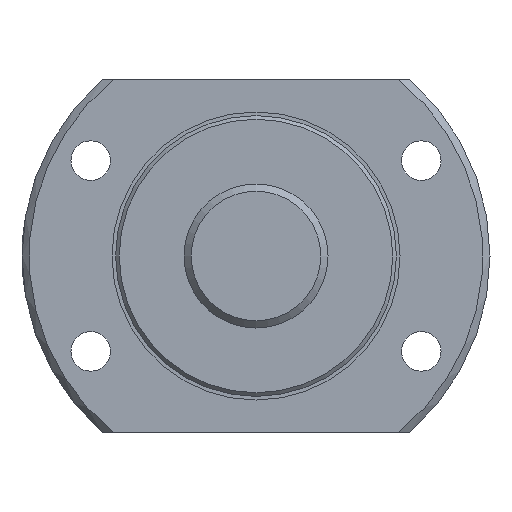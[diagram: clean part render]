
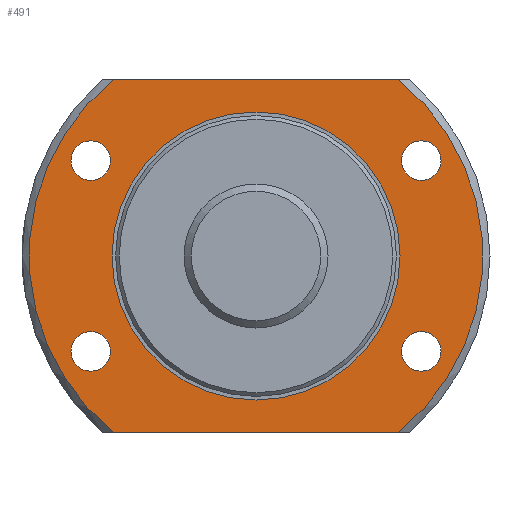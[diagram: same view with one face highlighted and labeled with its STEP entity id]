
A CAD part, left-side view. The second image highlights one B-rep face of the part: STEP entity #491.
In plain terms, the highlighted planar face has unit normal (-1, 0, 0).
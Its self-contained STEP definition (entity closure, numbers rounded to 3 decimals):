
#34=LINE('',#898,#42);
#35=LINE('',#899,#43);
#42=VECTOR('',#715,1000.);
#43=VECTOR('',#716,1000.);
#143=ORIENTED_EDGE('',*,*,#229,.T.);
#144=ORIENTED_EDGE('',*,*,#230,.F.);
#145=ORIENTED_EDGE('',*,*,#203,.F.);
#146=ORIENTED_EDGE('',*,*,#231,.F.);
#147=ORIENTED_EDGE('',*,*,#227,.F.);
#148=ORIENTED_EDGE('',*,*,#232,.T.);
#149=ORIENTED_EDGE('',*,*,#233,.T.);
#150=ORIENTED_EDGE('',*,*,#234,.T.);
#151=ORIENTED_EDGE('',*,*,#235,.T.);
#203=EDGE_CURVE('',#256,#254,#295,.T.);
#227=EDGE_CURVE('',#274,#275,#312,.T.);
#229=EDGE_CURVE('',#276,#276,#313,.T.);
#230=EDGE_CURVE('',#254,#274,#34,.T.);
#231=EDGE_CURVE('',#275,#256,#35,.T.);
#232=EDGE_CURVE('',#277,#277,#314,.T.);
#233=EDGE_CURVE('',#278,#278,#315,.T.);
#234=EDGE_CURVE('',#279,#279,#316,.T.);
#235=EDGE_CURVE('',#280,#280,#317,.T.);
#254=VERTEX_POINT('',#816);
#256=VERTEX_POINT('',#823);
#274=VERTEX_POINT('',#888);
#275=VERTEX_POINT('',#890);
#276=VERTEX_POINT('',#897);
#277=VERTEX_POINT('',#901);
#278=VERTEX_POINT('',#903);
#279=VERTEX_POINT('',#905);
#280=VERTEX_POINT('',#907);
#295=CIRCLE('',#548,31.5);
#312=CIRCLE('',#579,31.5);
#313=CIRCLE('',#581,20.);
#314=CIRCLE('',#582,2.75);
#315=CIRCLE('',#583,2.75);
#316=CIRCLE('',#584,2.75);
#317=CIRCLE('',#585,2.75);
#363=EDGE_LOOP('',(#143));
#364=EDGE_LOOP('',(#144,#145,#146,#147));
#365=EDGE_LOOP('',(#148));
#366=EDGE_LOOP('',(#149));
#367=EDGE_LOOP('',(#150));
#368=EDGE_LOOP('',(#151));
#431=FACE_BOUND('',#363,.T.);
#432=FACE_BOUND('',#364,.T.);
#433=FACE_BOUND('',#365,.T.);
#434=FACE_BOUND('',#366,.T.);
#435=FACE_BOUND('',#367,.T.);
#436=FACE_BOUND('',#368,.T.);
#465=PLANE('',#580);
#491=ADVANCED_FACE('',(#431,#432,#433,#434,#435,#436),#465,.T.);
#548=AXIS2_PLACEMENT_3D('',#824,#643,#644);
#579=AXIS2_PLACEMENT_3D('',#889,#709,#710);
#580=AXIS2_PLACEMENT_3D('',#895,#711,#712);
#581=AXIS2_PLACEMENT_3D('',#896,#713,#714);
#582=AXIS2_PLACEMENT_3D('',#900,#717,#718);
#583=AXIS2_PLACEMENT_3D('',#902,#719,#720);
#584=AXIS2_PLACEMENT_3D('',#904,#721,#722);
#585=AXIS2_PLACEMENT_3D('',#906,#723,#724);
#643=DIRECTION('',(1.,0.,0.));
#644=DIRECTION('',(0.,0.,-1.));
#709=DIRECTION('',(1.,0.,0.));
#710=DIRECTION('',(0.,0.,-1.));
#711=DIRECTION('',(-1.,0.,0.));
#712=DIRECTION('',(0.,0.,1.));
#713=DIRECTION('',(1.,0.,0.));
#714=DIRECTION('',(0.,0.,-1.));
#715=DIRECTION('',(0.,1.,0.));
#716=DIRECTION('',(0.,-1.,0.));
#717=DIRECTION('',(1.,0.,0.));
#718=DIRECTION('',(0.,0.,-1.));
#719=DIRECTION('',(1.,0.,0.));
#720=DIRECTION('',(0.,0.,-1.));
#721=DIRECTION('',(1.,0.,0.));
#722=DIRECTION('',(0.,0.,-1.));
#723=DIRECTION('',(1.,0.,0.));
#724=DIRECTION('',(0.,0.,-1.));
#816=CARTESIAN_POINT('',(5.5,-19.799,-24.5));
#823=CARTESIAN_POINT('',(5.5,-19.799,24.5));
#824=CARTESIAN_POINT('',(5.5,0.,0.));
#888=CARTESIAN_POINT('',(5.5,19.799,-24.5));
#889=CARTESIAN_POINT('',(5.5,0.,0.));
#890=CARTESIAN_POINT('',(5.5,19.799,24.5));
#895=CARTESIAN_POINT('',(5.5,31.5,0.));
#896=CARTESIAN_POINT('',(5.5,0.,0.));
#897=CARTESIAN_POINT('',(5.5,0.,-20.));
#898=CARTESIAN_POINT('',(5.5,31.5,-24.5));
#899=CARTESIAN_POINT('',(5.5,31.5,24.5));
#900=CARTESIAN_POINT('',(5.5,-22.95,13.25));
#901=CARTESIAN_POINT('',(5.5,-22.95,10.5));
#902=CARTESIAN_POINT('',(5.5,-22.95,-13.25));
#903=CARTESIAN_POINT('',(5.5,-22.95,-16.));
#904=CARTESIAN_POINT('',(5.5,22.95,-13.25));
#905=CARTESIAN_POINT('',(5.5,22.95,-16.));
#906=CARTESIAN_POINT('',(5.5,22.95,13.25));
#907=CARTESIAN_POINT('',(5.5,22.95,10.5));
